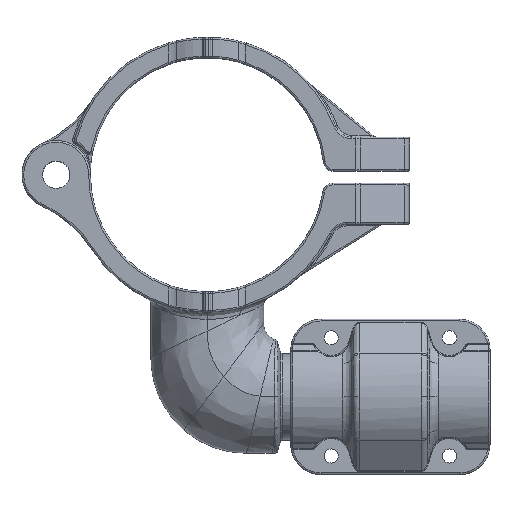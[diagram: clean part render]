
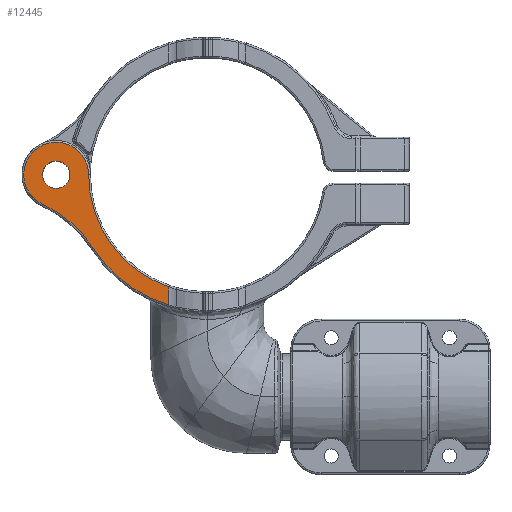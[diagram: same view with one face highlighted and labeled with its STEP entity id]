
A CAD part, top view. The second image highlights one B-rep face of the part: STEP entity #12445.
In plain terms, the highlighted planar face has unit normal (0, 0, 1).
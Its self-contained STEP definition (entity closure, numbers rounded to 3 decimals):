
#3060=DIRECTION('',(0.,1.,0.));
#3061=VECTOR('',#3060,5.309);
#3062=CARTESIAN_POINT('',(-11.384,-38.526,
17.708));
#3063=LINE('',#3062,#3061);
#3092=CARTESIAN_POINT('',(-44.726,0.,17.708));
#3093=DIRECTION('',(0.,0.,-1.));
#3094=DIRECTION('',(0.421,0.907,0.));
#3095=AXIS2_PLACEMENT_3D('',#3092,#3093,#3094);
#3100=CARTESIAN_POINT('',(0.,0.,17.708));
#3101=DIRECTION('',(0.,0.,1.));
#3102=DIRECTION('',(-1.,0.,0.));
#3103=AXIS2_PLACEMENT_3D('',#3100,#3101,#3102);
#3108=CARTESIAN_POINT('',(0.,0.,17.708));
#3109=DIRECTION('',(0.,0.,-1.));
#3110=DIRECTION('',(-0.283,-0.959,0.));
#3111=AXIS2_PLACEMENT_3D('',#3108,#3109,#3110);
#3116=CARTESIAN_POINT('',(-63.916,-41.295,17.708));
#3117=DIRECTION('',(0.,0.,1.));
#3118=DIRECTION('',(0.84,0.543,0.));
#3119=AXIS2_PLACEMENT_3D('',#3116,#3117,#3118);
#3124=CARTESIAN_POINT('',(-44.726,0.,17.708));
#3125=DIRECTION('',(0.,0.,-1.));
#3126=DIRECTION('',(-0.421,-0.907,0.));
#3127=AXIS2_PLACEMENT_3D('',#3124,#3125,#3126);
#3132=CARTESIAN_POINT('',(-44.726,0.,17.708));
#3133=DIRECTION('',(0.,0.,1.));
#3134=DIRECTION('',(1.,0.,0.));
#3135=AXIS2_PLACEMENT_3D('',#3132,#3133,#3134);
#3140=CARTESIAN_POINT('',(-44.726,0.,17.708));
#3141=DIRECTION('',(0.,0.,1.));
#3142=DIRECTION('',(-1.,0.,0.));
#3143=AXIS2_PLACEMENT_3D('',#3140,#3141,#3142);
#8358=CARTESIAN_POINT('',(-11.384,-38.526,17.708));
#8359=VERTEX_POINT('',#8358);
#8360=CARTESIAN_POINT('',(-33.743,-21.801,17.708));
#8361=VERTEX_POINT('',#8360);
#8364=CARTESIAN_POINT('',(-48.777,-8.718,17.708));
#8365=VERTEX_POINT('',#8364);
#8647=CARTESIAN_POINT('',(-11.384,-33.217,
17.708));
#8648=VERTEX_POINT('',#8647);
#8649=CARTESIAN_POINT('',(-40.675,8.718,17.708));
#8650=CARTESIAN_POINT('',(-35.113,0.,17.708));
#8651=VERTEX_POINT('',#8649);
#8652=VERTEX_POINT('',#8650);
#8653=CARTESIAN_POINT('',(-40.679,0.,17.708));
#8654=CARTESIAN_POINT('',(-48.774,0.,17.708));
#8655=VERTEX_POINT('',#8653);
#8656=VERTEX_POINT('',#8654);
#12423=CARTESIAN_POINT('',(0.,0.,17.708));
#12424=DIRECTION('',(0.,0.,1.));
#12425=DIRECTION('',(-1.,0.,0.));
#12426=AXIS2_PLACEMENT_3D('',#12423,#12424,#12425);
#12427=PLANE('',#12426);
#12429=ORIENTED_EDGE('',*,*,#12428,.T.);
#12431=ORIENTED_EDGE('',*,*,#12430,.T.);
#12432=ORIENTED_EDGE('',*,*,#12414,.F.);
#12433=ORIENTED_EDGE('',*,*,#11106,.T.);
#12434=ORIENTED_EDGE('',*,*,#11121,.T.);
#12436=ORIENTED_EDGE('',*,*,#12435,.T.);
#12437=EDGE_LOOP('',(#12429,#12431,#12432,#12433,#12434,#12436));
#12438=FACE_OUTER_BOUND('',#12437,.F.);
#12440=ORIENTED_EDGE('',*,*,#12439,.T.);
#12442=ORIENTED_EDGE('',*,*,#12441,.T.);
#12443=EDGE_LOOP('',(#12440,#12442));
#12444=FACE_BOUND('',#12443,.F.);
#3096=CIRCLE('',#3095,9.613);
#3104=CIRCLE('',#3103,35.113);
#3112=CIRCLE('',#3111,40.173);
#3120=CIRCLE('',#3119,35.923);
#3128=CIRCLE('',#3127,9.613);
#3136=CIRCLE('',#3135,4.048);
#3144=CIRCLE('',#3143,4.048);
#11106=EDGE_CURVE('',#8359,#8361,#3112,.T.);
#11121=EDGE_CURVE('',#8361,#8365,#3120,.T.);
#12414=EDGE_CURVE('',#8359,#8648,#3063,.T.);
#12428=EDGE_CURVE('',#8651,#8652,#3096,.T.);
#12430=EDGE_CURVE('',#8652,#8648,#3104,.T.);
#12435=EDGE_CURVE('',#8365,#8651,#3128,.T.);
#12439=EDGE_CURVE('',#8655,#8656,#3136,.T.);
#12441=EDGE_CURVE('',#8656,#8655,#3144,.T.);
#12445=ADVANCED_FACE('',(#12438,#12444),#12427,.T.);
